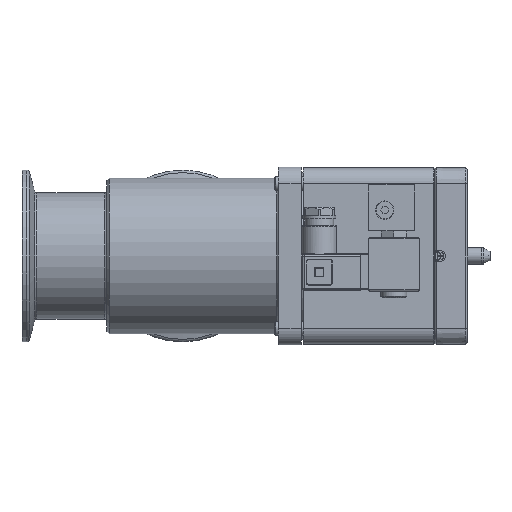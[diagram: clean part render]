
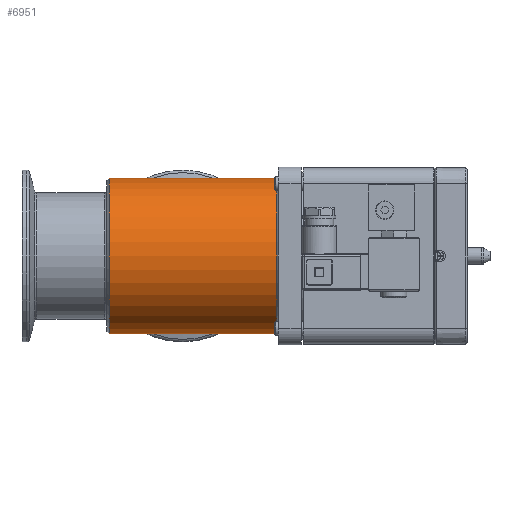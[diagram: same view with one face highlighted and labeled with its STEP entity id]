
A CAD part, front view. The second image highlights one B-rep face of the part: STEP entity #6951.
In plain terms, the highlighted cylindrical face has radius 33.95 mm (diameter 67.9 mm), a full revolution.
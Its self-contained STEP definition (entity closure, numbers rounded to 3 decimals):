
#6951=ADVANCED_FACE('',(#8066,#8067,#8068),#7756,.T.);
#7756=CYLINDRICAL_SURFACE('',#16885,33.95);
#7917=B_SPLINE_CURVE_WITH_KNOTS('',3,(#22020,#22021,#22022,#22023,#22024,
#22025,#22026,#22027,#22028,#22029,#22030,#22031,#22032,#22033,#22034,#22035,
#22036,#22037,#22038,#22039,#22040,#22041,#22042,#22043,#22044,#22045,#22046,
#22047,#22048,#22049,#22050,#22051,#22052,#22053),.UNSPECIFIED.,.T.,.F.,
(2,2,2,2,2,2,2,2,2,2,2,2,2,2,2,2,2,2,2),(-0.062,0.,0.063,0.125,
0.188,0.25,0.313,0.375,0.438,0.5,0.563,0.625,0.688,0.75,0.813,0.875,
0.938,1.,1.063),.UNSPECIFIED.);
#8066=FACE_BOUND('',#8633,.T.);
#8067=FACE_BOUND('',#8634,.T.);
#8068=FACE_BOUND('',#8635,.T.);
#8633=EDGE_LOOP('',(#9744));
#8634=EDGE_LOOP('',(#9745));
#8635=EDGE_LOOP('',(#9746));
#9744=ORIENTED_EDGE('',*,*,#14569,.T.);
#9745=ORIENTED_EDGE('',*,*,#14570,.T.);
#9746=ORIENTED_EDGE('',*,*,#14571,.F.);
#13308=VERTEX_POINT('',#22017);
#13309=VERTEX_POINT('',#22019);
#13310=VERTEX_POINT('',#22054);
#14569=EDGE_CURVE('',#13308,#13308,#16350,.T.);
#14570=EDGE_CURVE('',#13309,#13309,#16351,.T.);
#14571=EDGE_CURVE('',#13310,#13310,#7917,.T.);
#16350=CIRCLE('',#16883,33.95);
#16351=CIRCLE('',#16884,33.95);
#16883=AXIS2_PLACEMENT_3D('',#22016,#18223,#18224);
#16884=AXIS2_PLACEMENT_3D('',#22018,#18225,#18226);
#16885=AXIS2_PLACEMENT_3D('',#22055,#18227,#18228);
#18223=DIRECTION('',(1.,0.,0.));
#18224=DIRECTION('',(0.,0.,1.));
#18225=DIRECTION('',(-1.,0.,0.));
#18226=DIRECTION('',(0.,0.,1.));
#18227=DIRECTION('',(-1.,0.,0.));
#18228=DIRECTION('',(0.,0.,1.));
#22016=CARTESIAN_POINT('',(38.,0.,0.));
#22017=CARTESIAN_POINT('',(38.,0.,33.95));
#22018=CARTESIAN_POINT('',(111.025,0.,0.));
#22019=CARTESIAN_POINT('',(111.025,0.,33.95));
#22020=CARTESIAN_POINT('',(73.462,22.97,-25.));
#22021=CARTESIAN_POINT('',(66.538,22.97,-25.));
#22022=CARTESIAN_POINT('',(63.217,23.795,-24.276));
#22023=CARTESIAN_POINT('',(57.299,26.105,-21.772));
#22024=CARTESIAN_POINT('',(54.674,27.556,-19.999));
#22025=CARTESIAN_POINT('',(50.205,30.27,-15.589));
#22026=CARTESIAN_POINT('',(48.369,31.538,-12.958));
#22027=CARTESIAN_POINT('',(45.756,33.385,-6.929));
#22028=CARTESIAN_POINT('',(45.011,33.942,-3.504));
#22029=CARTESIAN_POINT('',(44.989,33.958,3.342));
#22030=CARTESIAN_POINT('',(45.703,33.423,6.749));
#22031=CARTESIAN_POINT('',(48.285,31.596,12.819));
#22032=CARTESIAN_POINT('',(50.132,30.318,15.499));
#22033=CARTESIAN_POINT('',(54.611,27.591,19.954));
#22034=CARTESIAN_POINT('',(57.215,26.147,21.724));
#22035=CARTESIAN_POINT('',(63.139,23.817,24.255));
#22036=CARTESIAN_POINT('',(66.496,22.98,24.99));
#22037=CARTESIAN_POINT('',(73.367,22.959,25.009));
#22038=CARTESIAN_POINT('',(76.766,23.79,24.28));
#22039=CARTESIAN_POINT('',(82.679,26.095,21.784));
#22040=CARTESIAN_POINT('',(85.316,27.551,20.006));
#22041=CARTESIAN_POINT('',(89.783,30.262,15.604));
#22042=CARTESIAN_POINT('',(91.639,31.543,12.949));
#22043=CARTESIAN_POINT('',(94.26,33.396,6.883));
#22044=CARTESIAN_POINT('',(94.989,33.942,3.521));
#22045=CARTESIAN_POINT('',(95.01,33.958,-3.368));
#22046=CARTESIAN_POINT('',(94.291,33.419,-6.767));
#22047=CARTESIAN_POINT('',(91.707,31.591,-12.832));
#22048=CARTESIAN_POINT('',(89.86,30.313,-15.51));
#22049=CARTESIAN_POINT('',(85.373,27.582,-19.967));
#22050=CARTESIAN_POINT('',(82.784,26.144,-21.728));
#22051=CARTESIAN_POINT('',(76.814,23.801,-24.271));
#22052=CARTESIAN_POINT('',(73.462,22.97,-25.));
#22053=CARTESIAN_POINT('',(66.538,22.97,-25.));
#22054=CARTESIAN_POINT('',(70.,22.97,-25.));
#22055=CARTESIAN_POINT('',(0.,0.,0.));
